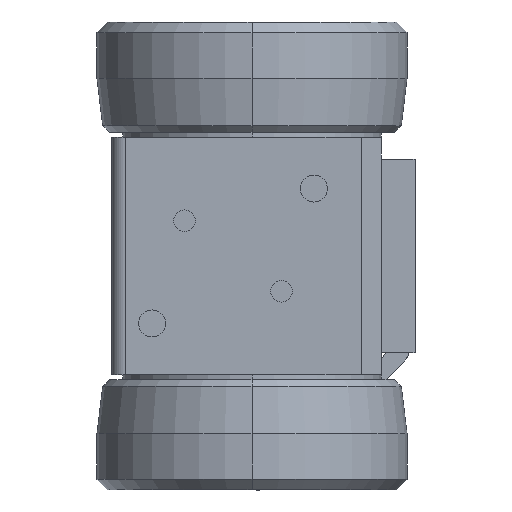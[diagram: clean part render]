
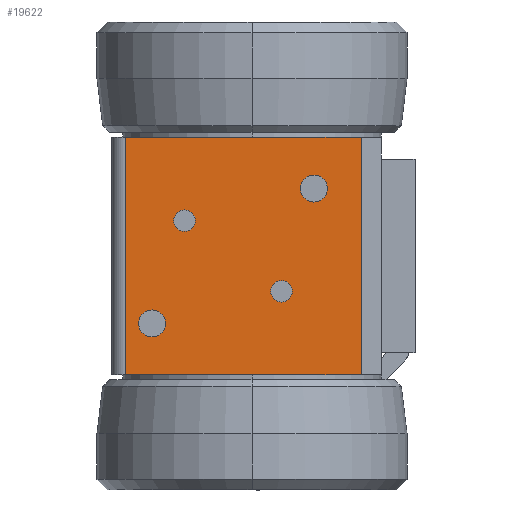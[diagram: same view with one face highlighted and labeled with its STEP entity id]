
A CAD part, left-side view. The second image highlights one B-rep face of the part: STEP entity #19622.
In plain terms, the highlighted planar face has unit normal (-1, 0, 0).
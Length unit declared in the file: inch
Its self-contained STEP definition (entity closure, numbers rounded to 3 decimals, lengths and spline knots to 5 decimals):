
#1064 = CARTESIAN_POINT ( 'NONE',  ( -2.398, -0.5459, -0.65464 ) ) ;
#1065 = DIRECTION ( 'NONE',  ( -1., 0., 0. ) ) ;
#1066 = DIRECTION ( 'NONE',  ( 0., -1., 0. ) ) ;
#1186 = CARTESIAN_POINT ( 'NONE',  ( -2.398, -1.148, 1.25 ) ) ;
#1187 = DIRECTION ( 'NONE',  ( -1., 0., 0. ) ) ;
#1188 = DIRECTION ( 'NONE',  ( 0., -1., 0. ) ) ;
#1189 = CARTESIAN_POINT ( 'NONE',  ( -2.398, 2.598, -2.202 ) ) ;
#1190 = DIRECTION ( 'NONE',  ( 0., -1., 0. ) ) ;
#1240 = CARTESIAN_POINT ( 'NONE',  ( -2.398, 1.852, -1.25 ) ) ;
#1241 = DIRECTION ( 'NONE',  ( -1., 0., 0. ) ) ;
#1242 = DIRECTION ( 'NONE',  ( 0., -1., 0. ) ) ;
#1455 = CARTESIAN_POINT ( 'NONE',  ( -2.398, 1.2499, 0.65464 ) ) ;
#1456 = DIRECTION ( 'NONE',  ( -1., 0., 0. ) ) ;
#1457 = DIRECTION ( 'NONE',  ( 0., -1., 0. ) ) ;
#2952 = VERTEX_POINT ( 'NONE', #30282 ) ;
#2968 = VERTEX_POINT ( 'NONE', #30298 ) ;
#2969 = VERTEX_POINT ( 'NONE', #30305 ) ;
#2981 = VERTEX_POINT ( 'NONE', #30001 ) ;
#3122 = VERTEX_POINT ( 'NONE', #34896 ) ;
#3136 = VERTEX_POINT ( 'NONE', #34982 ) ;
#3143 = VERTEX_POINT ( 'NONE', #35011 ) ;
#3156 = VERTEX_POINT ( 'NONE', #35032 ) ;
#3165 = VERTEX_POINT ( 'NONE', #35049 ) ;
#3166 = VERTEX_POINT ( 'NONE', #35055 ) ;
#3169 = VERTEX_POINT ( 'NONE', #35063 ) ;
#3172 = VERTEX_POINT ( 'NONE', #35084 ) ;
#3989 = ORIENTED_EDGE ( 'NONE', *, *, #16958, .F. ) ;
#4185 = EDGE_CURVE ( 'NONE', #3122, #3172, #10508, .T. ) ;
#4200 = EDGE_CURVE ( 'NONE', #3166, #3156, #10548, .T. ) ;
#5183 = CARTESIAN_POINT ( 'NONE',  ( -2.398, 1.852, -1.25 ) ) ;
#5184 = DIRECTION ( 'NONE',  ( -1., 0., 0. ) ) ;
#5185 = DIRECTION ( 'NONE',  ( 0., -1., 0. ) ) ;
#5276 = CARTESIAN_POINT ( 'NONE',  ( -2.398, 1.2499, 0.65464 ) ) ;
#5277 = DIRECTION ( 'NONE',  ( -1., 0., 0. ) ) ;
#5278 = DIRECTION ( 'NONE',  ( 0., -1., 0. ) ) ;
#7535 = AXIS2_PLACEMENT_3D ( 'NONE', #12993, #12991, #12989 ) ;
#7543 = AXIS2_PLACEMENT_3D ( 'NONE', #20879, #20880, #20868 ) ;
#10508 = CIRCLE ( 'NONE', #7535, 0.25 ) ;
#10543 = ORIENTED_EDGE ( 'NONE', *, *, #4200, .F. ) ;
#10548 = CIRCLE ( 'NONE', #7543, 0.2 ) ;
#10708 = ORIENTED_EDGE ( 'NONE', *, *, #17034, .F. ) ;
#10710 = ORIENTED_EDGE ( 'NONE', *, *, #22366, .F. ) ;
#10712 = ORIENTED_EDGE ( 'NONE', *, *, #17110, .F. ) ;
#10716 = ORIENTED_EDGE ( 'NONE', *, *, #22336, .F. ) ;
#10718 = ORIENTED_EDGE ( 'NONE', *, *, #17008, .F. ) ;
#10720 = ORIENTED_EDGE ( 'NONE', *, *, #4185, .F. ) ;
#10722 = ORIENTED_EDGE ( 'NONE', *, *, #17010, .T. ) ;
#10724 = ORIENTED_EDGE ( 'NONE', *, *, #17195, .T. ) ;
#10726 = ORIENTED_EDGE ( 'NONE', *, *, #17194, .F. ) ;
#10728 = ORIENTED_EDGE ( 'NONE', *, *, #17187, .T. ) ;
#12989 = DIRECTION ( 'NONE',  ( 0., -1., 0. ) ) ;
#12991 = DIRECTION ( 'NONE',  ( -1., 0., 0. ) ) ;
#12993 = CARTESIAN_POINT ( 'NONE',  ( -2.398, -1.148, 1.25 ) ) ;
#16958 = EDGE_CURVE ( 'NONE', #3156, #3166, #38138, .T. ) ;
#17008 = EDGE_CURVE ( 'NONE', #3172, #3122, #38217, .T. ) ;
#17010 = EDGE_CURVE ( 'NONE', #2981, #2952, #38220, .T. ) ;
#17034 = EDGE_CURVE ( 'NONE', #3165, #3169, #38266, .T. ) ;
#17110 = EDGE_CURVE ( 'NONE', #3136, #3143, #38403, .T. ) ;
#17187 = EDGE_CURVE ( 'NONE', #2969, #2981, #38541, .T. ) ;
#17194 = EDGE_CURVE ( 'NONE', #2969, #2968, #38549, .T. ) ;
#17195 = EDGE_CURVE ( 'NONE', #2952, #2968, #38553, .T. ) ;
#18584 = EDGE_LOOP ( 'NONE', ( #10708, #10716 ) ) ;
#18587 = EDGE_LOOP ( 'NONE', ( #10712, #10710 ) ) ;
#18588 = EDGE_LOOP ( 'NONE', ( #10722, #10724, #10726, #10728 ) ) ;
#18589 = EDGE_LOOP ( 'NONE', ( #3989, #10543 ) ) ;
#18590 = EDGE_LOOP ( 'NONE', ( #10718, #10720 ) ) ;
#19622 = ADVANCED_FACE ( 'NONE', ( #25947, #25951, #25948, #25950, #25949 ), #32276, .F. ) ;
#20868 = DIRECTION ( 'NONE',  ( 0., -1., 0. ) ) ;
#20879 = CARTESIAN_POINT ( 'NONE',  ( -2.398, -0.5459, -0.65464 ) ) ;
#20880 = DIRECTION ( 'NONE',  ( -1., 0., 0. ) ) ;
#21423 = DIRECTION ( 'NONE',  ( 0., 0., -1. ) ) ;
#21424 = CARTESIAN_POINT ( 'NONE',  ( -2.398, 2.348, -2.202 ) ) ;
#21466 = CARTESIAN_POINT ( 'NONE',  ( -2.398, 2.598, 2.202 ) ) ;
#21467 = DIRECTION ( 'NONE',  ( 0., -1., 0. ) ) ;
#21468 = CARTESIAN_POINT ( 'NONE',  ( -2.398, -2.023, -3.387 ) ) ;
#21469 = DIRECTION ( 'NONE',  ( 0., 0., 1. ) ) ;
#22336 = EDGE_CURVE ( 'NONE', #3169, #3165, #26528, .T. ) ;
#22366 = EDGE_CURVE ( 'NONE', #3143, #3136, #26682, .T. ) ;
#25947 = FACE_BOUND ( 'NONE', #18589, .T. ) ;
#25948 = FACE_BOUND ( 'NONE', #18584, .T. ) ;
#25949 = FACE_OUTER_BOUND ( 'NONE', #18588, .T. ) ;
#25950 = FACE_BOUND ( 'NONE', #18590, .T. ) ;
#25951 = FACE_BOUND ( 'NONE', #18587, .T. ) ;
#26528 = CIRCLE ( 'NONE', #33687, 0.25 ) ;
#26682 = CIRCLE ( 'NONE', #33697, 0.2 ) ;
#29448 = AXIS2_PLACEMENT_3D ( 'NONE', #1064, #1065, #1066 ) ;
#29469 = AXIS2_PLACEMENT_3D ( 'NONE', #1186, #1187, #1188 ) ;
#29473 = AXIS2_PLACEMENT_3D ( 'NONE', #1240, #1241, #1242 ) ;
#29477 = AXIS2_PLACEMENT_3D ( 'NONE', #1455, #1456, #1457 ) ;
#30001 = CARTESIAN_POINT ( 'NONE',  ( -2.398, 2.348, -2.202 ) ) ;
#30282 = CARTESIAN_POINT ( 'NONE',  ( -2.398, -2.023, -2.202 ) ) ;
#30298 = CARTESIAN_POINT ( 'NONE',  ( -2.398, -2.023, 2.202 ) ) ;
#30305 = CARTESIAN_POINT ( 'NONE',  ( -2.398, 2.348, 2.202 ) ) ;
#32273 = DIRECTION ( 'NONE',  ( 1., 0., 0. ) ) ;
#32276 = PLANE ( 'NONE',  #33461 ) ;
#32277 = CARTESIAN_POINT ( 'NONE',  ( -2.398, 2.598, 2.202 ) ) ;
#32279 = DIRECTION ( 'NONE',  ( 0., 1., 0. ) ) ;
#33461 = AXIS2_PLACEMENT_3D ( 'NONE', #32277, #32273, #32279 ) ;
#33687 = AXIS2_PLACEMENT_3D ( 'NONE', #5183, #5184, #5185 ) ;
#33697 = AXIS2_PLACEMENT_3D ( 'NONE', #5276, #5277, #5278 ) ;
#34896 = CARTESIAN_POINT ( 'NONE',  ( -2.398, -0.898, 1.25 ) ) ;
#34982 = CARTESIAN_POINT ( 'NONE',  ( -2.398, 1.0499, 0.65464 ) ) ;
#35011 = CARTESIAN_POINT ( 'NONE',  ( -2.398, 1.4499, 0.65464 ) ) ;
#35032 = CARTESIAN_POINT ( 'NONE',  ( -2.398, -0.7459, -0.65464 ) ) ;
#35049 = CARTESIAN_POINT ( 'NONE',  ( -2.398, 1.602, -1.25 ) ) ;
#35055 = CARTESIAN_POINT ( 'NONE',  ( -2.398, -0.3459, -0.65464 ) ) ;
#35063 = CARTESIAN_POINT ( 'NONE',  ( -2.398, 2.102, -1.25 ) ) ;
#35084 = CARTESIAN_POINT ( 'NONE',  ( -2.398, -1.398, 1.25 ) ) ;
#38138 = CIRCLE ( 'NONE', #29448, 0.2 ) ;
#38217 = CIRCLE ( 'NONE', #29469, 0.25 ) ;
#38220 = LINE ( 'NONE', #1189, #38223 ) ;
#38223 = VECTOR ( 'NONE', #1190, 39.37008 ) ;
#38266 = CIRCLE ( 'NONE', #29473, 0.25 ) ;
#38403 = CIRCLE ( 'NONE', #29477, 0.2 ) ;
#38541 = LINE ( 'NONE', #21424, #38543 ) ;
#38543 = VECTOR ( 'NONE', #21423, 39.37008 ) ;
#38549 = LINE ( 'NONE', #21466, #38554 ) ;
#38553 = LINE ( 'NONE', #21468, #38556 ) ;
#38554 = VECTOR ( 'NONE', #21467, 39.37008 ) ;
#38556 = VECTOR ( 'NONE', #21469, 39.37008 ) ;
